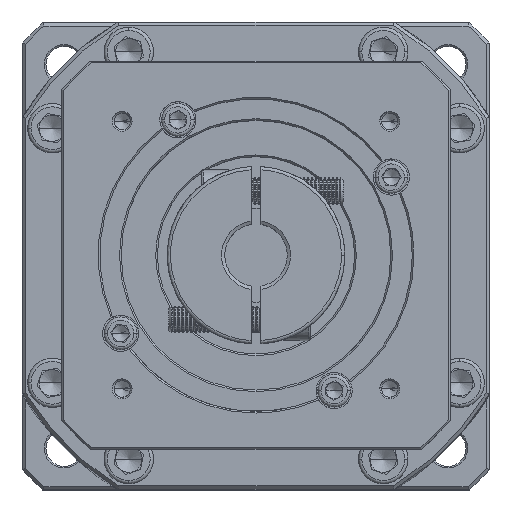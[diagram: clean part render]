
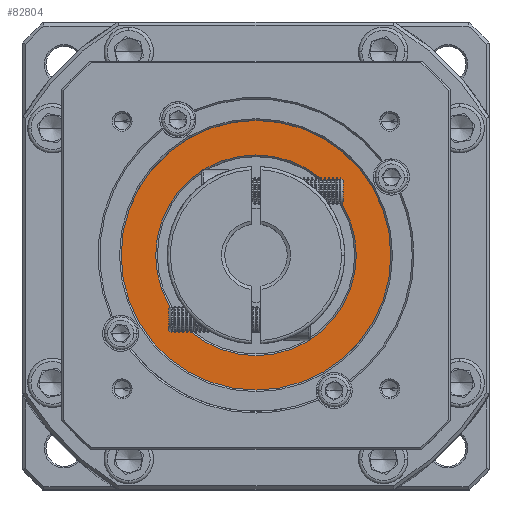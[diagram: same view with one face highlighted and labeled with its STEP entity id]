
A CAD part, top view. The second image highlights one B-rep face of the part: STEP entity #82804.
In plain terms, the highlighted planar face has unit normal (0, 0, 1).
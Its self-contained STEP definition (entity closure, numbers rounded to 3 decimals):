
#2264 = CARTESIAN_POINT ( 'NONE',  ( -89.69, 40.51, 339.75 ) ) ;
#8103 = VERTEX_POINT ( 'NONE', #89546 ) ;
#12367 = FACE_OUTER_BOUND ( 'NONE', #67660, .T. ) ;
#12550 = VERTEX_POINT ( 'NONE', #18942 ) ;
#17488 = AXIS2_PLACEMENT_3D ( 'NONE', #76689, #112772, #78145 ) ;
#17908 = CARTESIAN_POINT ( 'NONE',  ( -59.19, 40.51, 339.75 ) ) ;
#18942 = CARTESIAN_POINT ( 'NONE',  ( -100.19, 40.51, 339.75 ) ) ;
#19632 = DIRECTION ( 'NONE',  ( 1., 0., 0. ) ) ;
#21869 = EDGE_CURVE ( 'NONE', #106482, #12550, #67404, .T. ) ;
#25681 = AXIS2_PLACEMENT_3D ( 'NONE', #91968, #104371, #114730 ) ;
#40400 = CIRCLE ( 'NONE', #25681, 41. ) ;
#44009 = EDGE_LOOP ( 'NONE', ( #111450, #136828 ) ) ;
#44227 = ORIENTED_EDGE ( 'NONE', *, *, #55839, .T. ) ;
#55839 = EDGE_CURVE ( 'NONE', #12550, #106482, #40400, .T. ) ;
#56121 = FACE_BOUND ( 'NONE', #44009, .T. ) ;
#60996 = AXIS2_PLACEMENT_3D ( 'NONE', #109247, #86456, #19632 ) ;
#62218 = EDGE_CURVE ( 'NONE', #94593, #8103, #122160, .T. ) ;
#67404 = CIRCLE ( 'NONE', #60996, 41. ) ;
#67660 = EDGE_LOOP ( 'NONE', ( #81011, #44227 ) ) ;
#73383 = DIRECTION ( 'NONE',  ( 1., 0., 0. ) ) ;
#76432 = AXIS2_PLACEMENT_3D ( 'NONE', #93567, #115358, #126730 ) ;
#76689 = CARTESIAN_POINT ( 'NONE',  ( -59.19, 40.51, 339.75 ) ) ;
#78145 = DIRECTION ( 'NONE',  ( 1., 0., 0. ) ) ;
#81011 = ORIENTED_EDGE ( 'NONE', *, *, #21869, .T. ) ;
#82804 = ADVANCED_FACE ( 'NONE', ( #12367, #56121 ), #92127, .T. ) ;
#86456 = DIRECTION ( 'NONE',  ( 0., 0., 1. ) ) ;
#89546 = CARTESIAN_POINT ( 'NONE',  ( -28.69, 40.51, 339.75 ) ) ;
#91968 = CARTESIAN_POINT ( 'NONE',  ( -59.19, 40.51, 339.75 ) ) ;
#92127 = PLANE ( 'NONE',  #76432 ) ;
#92695 = AXIS2_PLACEMENT_3D ( 'NONE', #17908, #141562, #73383 ) ;
#93567 = CARTESIAN_POINT ( 'NONE',  ( -59.19, 40.51, 339.75 ) ) ;
#94593 = VERTEX_POINT ( 'NONE', #2264 ) ;
#102343 = EDGE_CURVE ( 'NONE', #8103, #94593, #117733, .T. ) ;
#104371 = DIRECTION ( 'NONE',  ( 0., 0., 1. ) ) ;
#106482 = VERTEX_POINT ( 'NONE', #137745 ) ;
#109247 = CARTESIAN_POINT ( 'NONE',  ( -59.19, 40.51, 339.75 ) ) ;
#111450 = ORIENTED_EDGE ( 'NONE', *, *, #102343, .T. ) ;
#112772 = DIRECTION ( 'NONE',  ( 0., 0., -1. ) ) ;
#114730 = DIRECTION ( 'NONE',  ( 1., 0., 0. ) ) ;
#115358 = DIRECTION ( 'NONE',  ( 0., 0., 1. ) ) ;
#117733 = CIRCLE ( 'NONE', #17488, 30.5 ) ;
#122160 = CIRCLE ( 'NONE', #92695, 30.5 ) ;
#126730 = DIRECTION ( 'NONE',  ( 1., 0., 0. ) ) ;
#136828 = ORIENTED_EDGE ( 'NONE', *, *, #62218, .T. ) ;
#137745 = CARTESIAN_POINT ( 'NONE',  ( -18.19, 40.51, 339.75 ) ) ;
#141562 = DIRECTION ( 'NONE',  ( 0., 0., -1. ) ) ;
